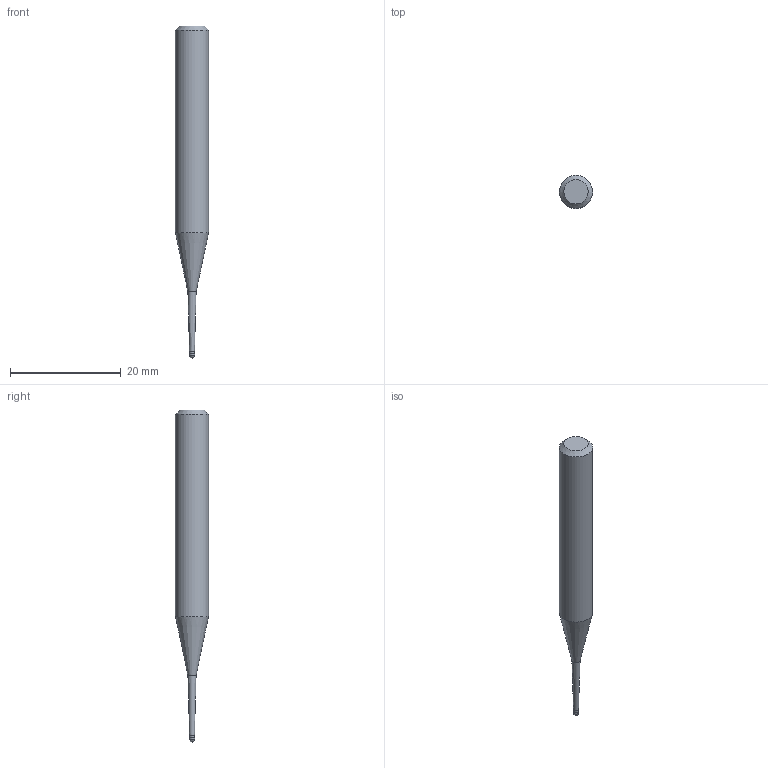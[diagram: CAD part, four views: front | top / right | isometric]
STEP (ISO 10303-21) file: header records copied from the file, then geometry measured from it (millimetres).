
FILE_DESCRIPTION((''),'2;1');
FILE_NAME('C:\Users\nsx150\AppData\Local\Temp\Mastercam 2021\E0ENTZRV18\TEMP.step','2021-09-02T09:56:08',(''),(''),'STEP Write','Mastercam 2021 ... CNC Software, Inc.','');
FILE_SCHEMA(('AUTOMOTIVE_DESIGN'));
Length unit declared in the file: millimetre
Products named in the file (1): None
Bounding box: 6 x 6 x 60 mm (x, y, z)
Volume: 1195.1 mm3; surface area: 896.2 mm2
Topology: 2 solids, 2 shells, 10 faces, 16 edges, 9 vertices
Faces by surface type: plane 3, cylinder 3, cone 3, sphere 1
Full cylindrical faces by diameter (mm): 0.905 x1, 1 x1, 6 x1
Entity records: 232 total; most frequent: DIRECTION 40, CARTESIAN_POINT 28, AXIS2_PLACEMENT_3D 20, ORIENTED_EDGE 16, EDGE_LOOP 16, STYLED_ITEM 13, ADVANCED_FACE 10, FACE_BOUND 9
